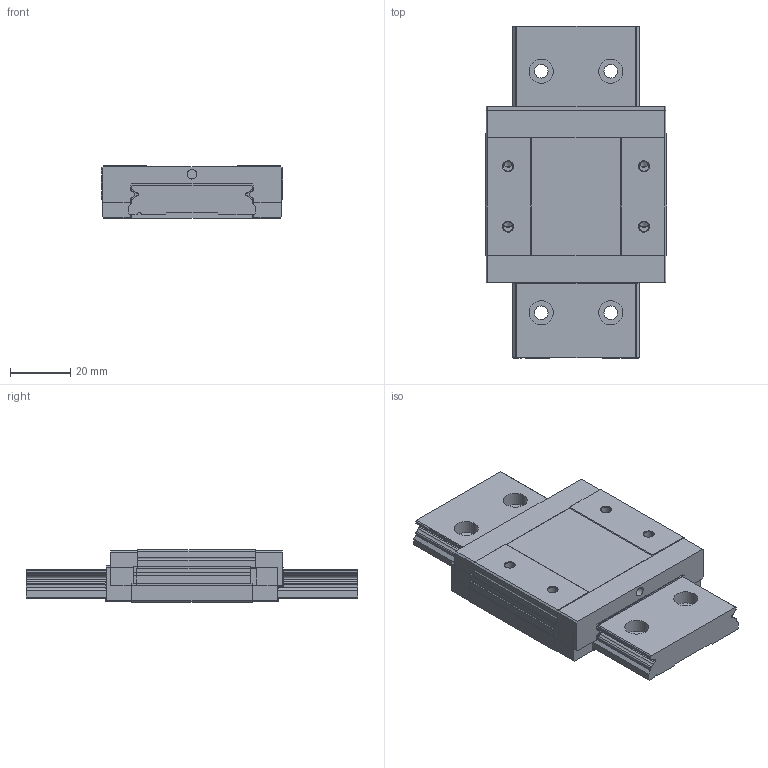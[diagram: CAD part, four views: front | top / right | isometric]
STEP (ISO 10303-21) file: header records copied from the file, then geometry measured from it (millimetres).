
FILE_DESCRIPTION( ( 'Unknown' ), '1' );
FILE_NAME( 'C:/Documents and Settings/Administrator/官帕 拳搁/肯丰 累诀/固聪抿绢 墨促肺弊 累诀 2008斥/3D/SBMW/SBMW-15/SBMW-15.stp', 'Unknown', ( 'Unknown' ), ( 'Unknown' ), 'XStep 1.0', 'Unknown', ' ' );
FILE_SCHEMA( ( 'automotive_design' ) );
Length unit declared in the file: millimetre
Products named in the file (5): Assem1; R; B; E
Bounding box: 60 x 110 x 17.39 mm (x, y, z)
Surface area: 51737.3 mm2
Topology: 8 solids, 8 shells, 388 faces, 1072 edges, 712 vertices
Faces by surface type: plane 216, cylinder 156, cone 16
Full cylindrical faces by diameter (mm): 3.2 x4, 3.242 x8, 4.5 x12, 8 x12
Entity records: 6408 total; most frequent: DIRECTION 1056, CARTESIAN_POINT 1045, ORIENTED_EDGE 996, EDGE_CURVE 498, AXIS2_PLACEMENT_3D 359, VERTEX_POINT 348, LINE 338, VECTOR 338
